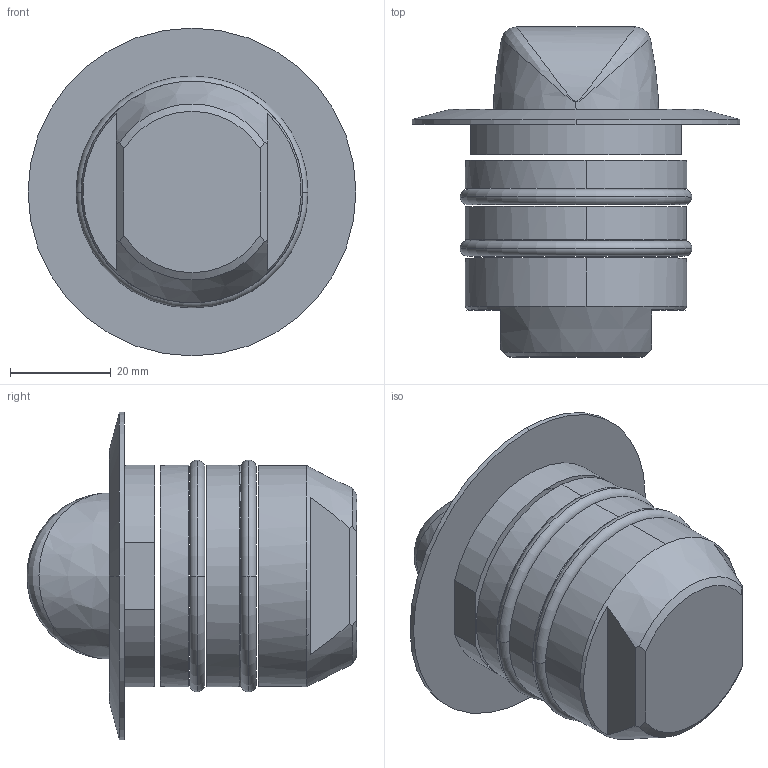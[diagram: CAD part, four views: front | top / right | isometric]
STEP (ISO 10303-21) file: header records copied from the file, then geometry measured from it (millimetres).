
FILE_DESCRIPTION((''),'2;1');
FILE_NAME('TRIM_CNC','2025-12-11T15:54:24',('Minervini'),(''),'CREO PARAMETRIC BY PTC INC, 2025010','CREO PARAMETRIC BY PTC INC, 2025010','');
FILE_SCHEMA(('CONFIG_CONTROL_DESIGN'));
Length unit declared in the file: millimetre
Products named in the file (1): TRIM_CNC
Bounding box: 65 x 65.43 x 65 mm (x, y, z)
Surface area: 17997.5 mm2 (no closed solid volume)
Topology: 0 solids, 8 shells, 44 faces, 110 edges, 70 vertices
Faces by surface type: torus 12, plane 11, cylinder 11, cone 6, bspline 4
Entity records: 2526 total; most frequent: CARTESIAN_POINT 1442, DIRECTION 242, ORIENTED_EDGE 196, EDGE_CURVE 110, AXIS2_PLACEMENT_3D 108, VERTEX_POINT 70, CIRCLE 68, EDGE_LOOP 44
